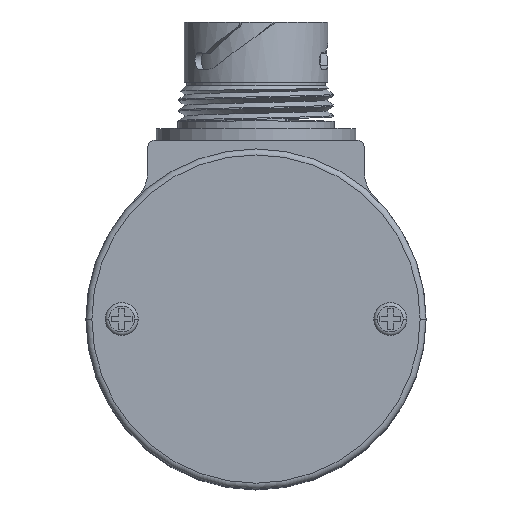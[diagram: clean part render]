
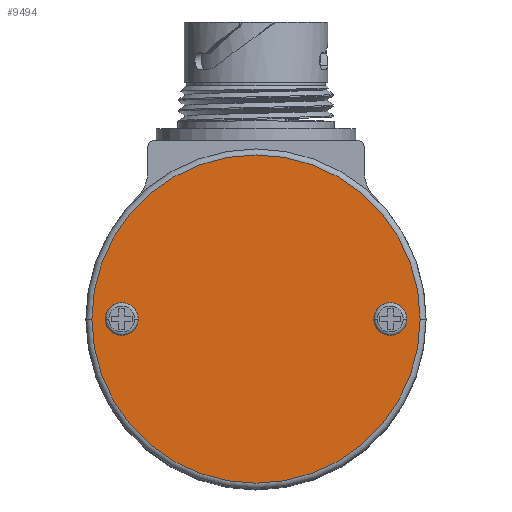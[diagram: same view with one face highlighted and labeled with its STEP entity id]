
A CAD part, top view. The second image highlights one B-rep face of the part: STEP entity #9494.
In plain terms, the highlighted planar face has unit normal (0, 0, 1).
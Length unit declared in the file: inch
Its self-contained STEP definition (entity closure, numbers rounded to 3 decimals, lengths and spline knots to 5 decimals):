
#322 = EDGE_CURVE ( 'NONE', #10357, #4714, #5437, .T. ) ;
#397 = DIRECTION ( 'NONE',  ( 0., 0., 1. ) ) ;
#589 = CARTESIAN_POINT ( 'NONE',  ( 0.9, 0., 3.24 ) ) ;
#709 = AXIS2_PLACEMENT_3D ( 'NONE', #6442, #1287, #7325 ) ;
#737 = DIRECTION ( 'NONE',  ( 1., 0., 0. ) ) ;
#1112 = CARTESIAN_POINT ( 'NONE',  ( -0.9, 0., 3.24 ) ) ;
#1287 = DIRECTION ( 'NONE',  ( 0., 0., 1. ) ) ;
#1393 = CARTESIAN_POINT ( 'NONE',  ( 0., 0., 3.24 ) ) ;
#1457 = DIRECTION ( 'NONE',  ( 1., 0., 0. ) ) ;
#1993 = DIRECTION ( 'NONE',  ( 1., 0., 0. ) ) ;
#2229 = ORIENTED_EDGE ( 'NONE', *, *, #6884, .F. ) ;
#2264 = DIRECTION ( 'NONE',  ( 1., 0., 0. ) ) ;
#2392 = AXIS2_PLACEMENT_3D ( 'NONE', #4179, #5893, #737 ) ;
#2622 = EDGE_CURVE ( 'NONE', #10512, #4919, #9890, .T. ) ;
#3595 = CARTESIAN_POINT ( 'NONE',  ( -0.985, 0., 3.24 ) ) ;
#3735 = CARTESIAN_POINT ( 'NONE',  ( -0.815, 0., 3.24 ) ) ;
#3929 = AXIS2_PLACEMENT_3D ( 'NONE', #9985, #4819, #10874 ) ;
#3998 = AXIS2_PLACEMENT_3D ( 'NONE', #1112, #7157, #1993 ) ;
#4119 = ORIENTED_EDGE ( 'NONE', *, *, #9939, .T. ) ;
#4179 = CARTESIAN_POINT ( 'NONE',  ( 0., 0., 3.24 ) ) ;
#4714 = VERTEX_POINT ( 'NONE', #3735 ) ;
#4819 = DIRECTION ( 'NONE',  ( 0., 0., 1. ) ) ;
#4840 = CARTESIAN_POINT ( 'NONE',  ( -1.1005, 0., 3.24 ) ) ;
#4901 = AXIS2_PLACEMENT_3D ( 'NONE', #5558, #397, #6574 ) ;
#4919 = VERTEX_POINT ( 'NONE', #4840 ) ;
#5437 = CIRCLE ( 'NONE', #4901, 0.085 ) ;
#5558 = CARTESIAN_POINT ( 'NONE',  ( -0.9, 0., 3.24 ) ) ;
#5798 = FACE_BOUND ( 'NONE', #8472, .T. ) ;
#5893 = DIRECTION ( 'NONE',  ( 0., 0., 1. ) ) ;
#5901 = CARTESIAN_POINT ( 'NONE',  ( 0.985, 0., 3.24 ) ) ;
#5939 = CIRCLE ( 'NONE', #709, 0.085 ) ;
#6386 = ORIENTED_EDGE ( 'NONE', *, *, #10685, .F. ) ;
#6442 = CARTESIAN_POINT ( 'NONE',  ( 0.9, 0., 3.24 ) ) ;
#6574 = DIRECTION ( 'NONE',  ( 1., 0., 0. ) ) ;
#6605 = VERTEX_POINT ( 'NONE', #5901 ) ;
#6620 = DIRECTION ( 'NONE',  ( 0., 0., 1. ) ) ;
#6884 = EDGE_CURVE ( 'NONE', #4714, #10357, #9260, .T. ) ;
#7001 = ORIENTED_EDGE ( 'NONE', *, *, #8474, .F. ) ;
#7034 = CIRCLE ( 'NONE', #8692, 0.085 ) ;
#7157 = DIRECTION ( 'NONE',  ( 0., 0., 1. ) ) ;
#7175 = CIRCLE ( 'NONE', #3929, 1.1005 ) ;
#7217 = CARTESIAN_POINT ( 'NONE',  ( 1.1005, 0., 3.24 ) ) ;
#7325 = DIRECTION ( 'NONE',  ( 1., 0., 0. ) ) ;
#7432 = DIRECTION ( 'NONE',  ( 0., 0., 1. ) ) ;
#7611 = EDGE_LOOP ( 'NONE', ( #11177, #4119 ) ) ;
#7953 = EDGE_LOOP ( 'NONE', ( #2229, #10167 ) ) ;
#8472 = EDGE_LOOP ( 'NONE', ( #6386, #7001 ) ) ;
#8474 = EDGE_CURVE ( 'NONE', #9042, #6605, #5939, .T. ) ;
#8692 = AXIS2_PLACEMENT_3D ( 'NONE', #589, #6620, #1457 ) ;
#9042 = VERTEX_POINT ( 'NONE', #9251 ) ;
#9251 = CARTESIAN_POINT ( 'NONE',  ( 0.815, 0., 3.24 ) ) ;
#9260 = CIRCLE ( 'NONE', #3998, 0.085 ) ;
#9342 = PLANE ( 'NONE',  #2392 ) ;
#9494 = ADVANCED_FACE ( 'NONE', ( #5798, #10402, #10125 ), #9342, .T. ) ;
#9890 = CIRCLE ( 'NONE', #10193, 1.1005 ) ;
#9939 = EDGE_CURVE ( 'NONE', #4919, #10512, #7175, .T. ) ;
#9985 = CARTESIAN_POINT ( 'NONE',  ( 0., 0., 3.24 ) ) ;
#10125 = FACE_OUTER_BOUND ( 'NONE', #7611, .T. ) ;
#10167 = ORIENTED_EDGE ( 'NONE', *, *, #322, .F. ) ;
#10193 = AXIS2_PLACEMENT_3D ( 'NONE', #1393, #7432, #2264 ) ;
#10357 = VERTEX_POINT ( 'NONE', #3595 ) ;
#10402 = FACE_BOUND ( 'NONE', #7953, .T. ) ;
#10512 = VERTEX_POINT ( 'NONE', #7217 ) ;
#10685 = EDGE_CURVE ( 'NONE', #6605, #9042, #7034, .T. ) ;
#10874 = DIRECTION ( 'NONE',  ( 1., 0., 0. ) ) ;
#11177 = ORIENTED_EDGE ( 'NONE', *, *, #2622, .T. ) ;
